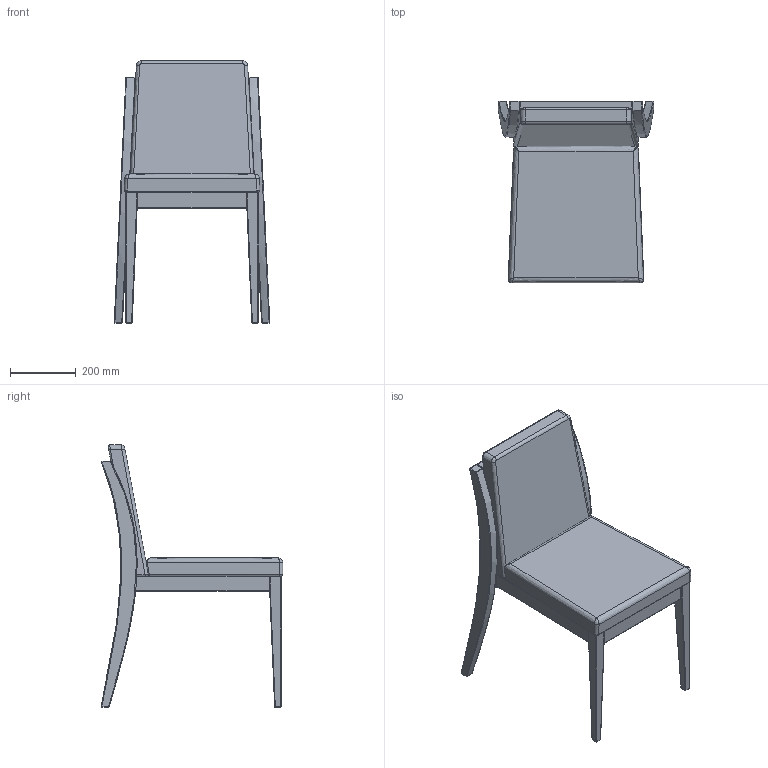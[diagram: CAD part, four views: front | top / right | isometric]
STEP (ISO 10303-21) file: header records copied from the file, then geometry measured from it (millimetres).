
FILE_DESCRIPTION(/* description */ (''),/* implementation_level */ '2;1');
FILE_NAME(/* name */ 'KINOSH~1',/* time_stamp */ '2019-07-19T11:56:27+09:00',/* author */ (''),/* organization */ (''),/* preprocessor_version */ 'ST-DEVELOPER v15',/* originating_system */ '',/* authorisation */ '');
FILE_SCHEMA (('AUTOMOTIVE_DESIGN'));
Length unit declared in the file: millimetre
Products named in the file (1): Document
Bounding box: 474.8 x 554.52 x 800 mm (x, y, z)
Volume: 2057729.2 mm3; surface area: 1317040.8 mm2
Topology: 6 solids, 11 shells, 300 faces, 678 edges, 330 vertices
Faces by surface type: bspline 235, plane 65
Entity records: 13595 total; most frequent: CARTESIAN_POINT 9932, ORIENTED_EDGE 1212, EDGE_CURVE 634, VERTEX_POINT 330, B_SPLINE_CURVE_WITH_KNOTS 325, ADVANCED_FACE 300, FACE_OUTER_BOUND 300, EDGE_LOOP 300
